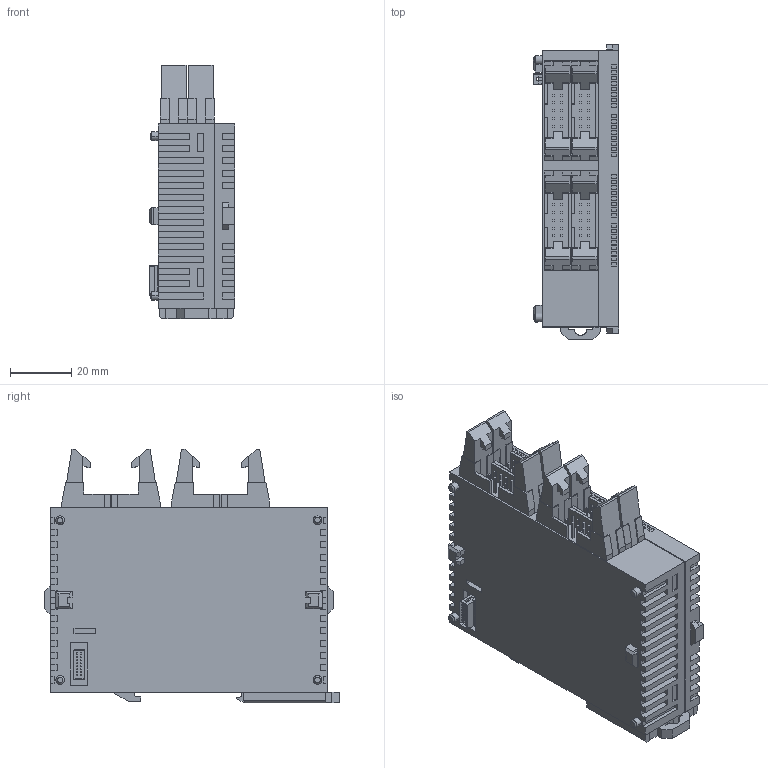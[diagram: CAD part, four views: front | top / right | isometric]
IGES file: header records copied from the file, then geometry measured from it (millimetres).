
Start section: SolidWorks IGES file using analytic representation for surfaces
Global section: file name: C:\catalog\FP0R_catalog\afp0re32t\afp0re32t.IGS; native system: SolidWorks 2010; preprocessor: SolidWorks 2010; author: ek1676; date: 130628.151040; units: millimetre
Bounding box: 28 x 96.05 x 82.7 mm (x, y, z)
Surface area: 33131.4 mm2 (no closed solid volume)
Topology: 0 solids, 0 shells, 1160 faces, 6892 edges, 6892 vertices
Faces by surface type: bspline 1119, revolution 41
